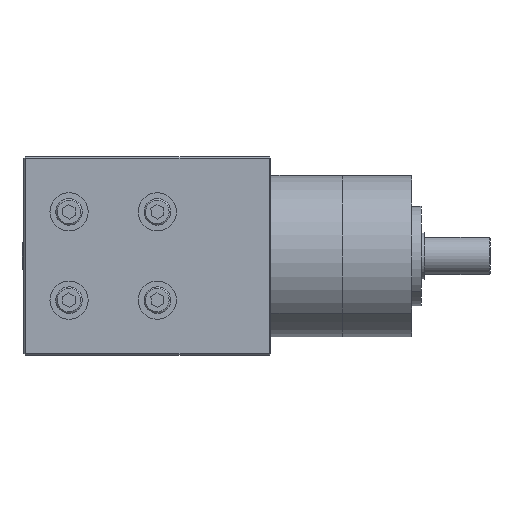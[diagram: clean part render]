
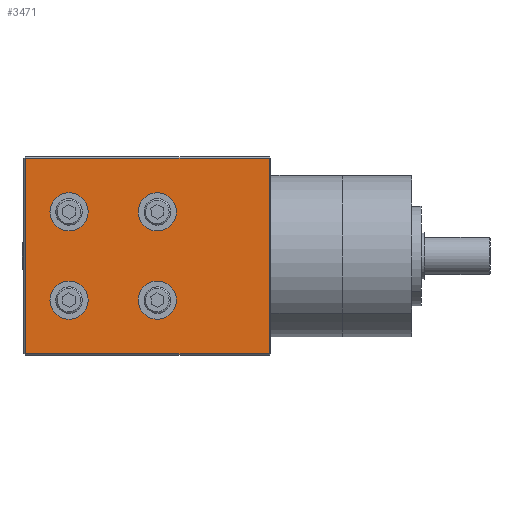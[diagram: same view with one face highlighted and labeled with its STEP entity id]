
A CAD part, front view. The second image highlights one B-rep face of the part: STEP entity #3471.
In plain terms, the highlighted planar face has unit normal (0, -1, 0).
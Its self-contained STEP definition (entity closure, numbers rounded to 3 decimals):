
#159 = FACE_BOUND ( 'NONE', #8695, .T. ) ;
#233 = DIRECTION ( 'NONE',  ( 0., 0., -1. ) ) ;
#336 = LINE ( 'NONE', #8129, #11115 ) ;
#353 = DIRECTION ( 'NONE',  ( 1., 0., 0. ) ) ;
#536 = VECTOR ( 'NONE', #233, 1000. ) ;
#609 = CARTESIAN_POINT ( 'NONE',  ( -10.858, -100.506, -66.179 ) ) ;
#709 = EDGE_CURVE ( 'NONE', #9311, #7348, #2688, .T. ) ;
#780 = CARTESIAN_POINT ( 'NONE',  ( -10.858, -100.506, -60.059 ) ) ;
#837 = DIRECTION ( 'NONE',  ( 0., 0., -1. ) ) ;
#955 = VECTOR ( 'NONE', #14686, 1000. ) ;
#1033 = CIRCLE ( 'NONE', #2402, 6.12 ) ;
#1438 = CARTESIAN_POINT ( 'NONE',  ( 24.986, -100.506, -42.96 ) ) ;
#1648 = EDGE_CURVE ( 'NONE', #8532, #12076, #8565, .T. ) ;
#1676 = ORIENTED_EDGE ( 'NONE', *, *, #6615, .T. ) ;
#1787 = CARTESIAN_POINT ( 'NONE',  ( -39.146, -100.506, -88.346 ) ) ;
#1827 = CARTESIAN_POINT ( 'NONE',  ( -53.069, -100.506, -42.96 ) ) ;
#1978 = DIRECTION ( 'NONE',  ( 0., -1., 0. ) ) ;
#2039 = CIRCLE ( 'NONE', #10044, 6.12 ) ;
#2374 = CARTESIAN_POINT ( 'NONE',  ( -10.858, -100.506, -88.346 ) ) ;
#2402 = AXIS2_PLACEMENT_3D ( 'NONE', #2374, #13181, #2476 ) ;
#2440 = FACE_BOUND ( 'NONE', #12923, .T. ) ;
#2452 = EDGE_CURVE ( 'NONE', #12038, #4249, #7398, .T. ) ;
#2476 = DIRECTION ( 'NONE',  ( 0., 0., -1. ) ) ;
#2543 = DIRECTION ( 'NONE',  ( 0., 0., -1. ) ) ;
#2548 = AXIS2_PLACEMENT_3D ( 'NONE', #14233, #8099, #14289 ) ;
#2688 = CIRCLE ( 'NONE', #11516, 6.12 ) ;
#2790 = CARTESIAN_POINT ( 'NONE',  ( -39.146, -100.506, -66.179 ) ) ;
#2965 = ORIENTED_EDGE ( 'NONE', *, *, #2452, .T. ) ;
#3047 = VERTEX_POINT ( 'NONE', #7486 ) ;
#3076 = CARTESIAN_POINT ( 'NONE',  ( -39.146, -100.506, -94.466 ) ) ;
#3133 = DIRECTION ( 'NONE',  ( 0., -1., 0. ) ) ;
#3366 = FACE_BOUND ( 'NONE', #11465, .T. ) ;
#3471 = ADVANCED_FACE ( 'NONE', ( #9807, #5450, #3366, #2440, #159 ), #13019, .F. ) ;
#3635 = LINE ( 'NONE', #6340, #7629 ) ;
#3861 = EDGE_CURVE ( 'NONE', #14158, #15181, #2039, .T. ) ;
#4060 = EDGE_CURVE ( 'NONE', #4249, #9367, #336, .T. ) ;
#4206 = ORIENTED_EDGE ( 'NONE', *, *, #13867, .F. ) ;
#4249 = VERTEX_POINT ( 'NONE', #1438 ) ;
#4549 = AXIS2_PLACEMENT_3D ( 'NONE', #780, #1978, #837 ) ;
#4808 = CARTESIAN_POINT ( 'NONE',  ( -10.858, -100.506, -60.059 ) ) ;
#5450 = FACE_BOUND ( 'NONE', #12191, .T. ) ;
#5467 = DIRECTION ( 'NONE',  ( 0., 0., -1. ) ) ;
#5669 = AXIS2_PLACEMENT_3D ( 'NONE', #1787, #11505, #10255 ) ;
#6073 = ORIENTED_EDGE ( 'NONE', *, *, #3861, .F. ) ;
#6080 = DIRECTION ( 'NONE',  ( 0., 0., -1. ) ) ;
#6109 = CARTESIAN_POINT ( 'NONE',  ( 24.986, -100.506, -42.452 ) ) ;
#6197 = DIRECTION ( 'NONE',  ( 0., -1., 0. ) ) ;
#6340 = CARTESIAN_POINT ( 'NONE',  ( -53.577, -100.506, -105.444 ) ) ;
#6615 = EDGE_CURVE ( 'NONE', #8734, #12038, #3635, .T. ) ;
#7072 = AXIS2_PLACEMENT_3D ( 'NONE', #9175, #3133, #14044 ) ;
#7097 = CIRCLE ( 'NONE', #7072, 6.12 ) ;
#7348 = VERTEX_POINT ( 'NONE', #12868 ) ;
#7398 = LINE ( 'NONE', #6109, #955 ) ;
#7486 = CARTESIAN_POINT ( 'NONE',  ( -10.858, -100.506, -53.939 ) ) ;
#7532 = DIRECTION ( 'NONE',  ( 0., -1., 0. ) ) ;
#7629 = VECTOR ( 'NONE', #353, 1000. ) ;
#7790 = CARTESIAN_POINT ( 'NONE',  ( -39.146, -100.506, -53.939 ) ) ;
#7873 = CARTESIAN_POINT ( 'NONE',  ( -10.858, -100.506, -94.466 ) ) ;
#8080 = DIRECTION ( 'NONE',  ( 0., -1., 0. ) ) ;
#8099 = DIRECTION ( 'NONE',  ( 0., 1., 0. ) ) ;
#8129 = CARTESIAN_POINT ( 'NONE',  ( -53.577, -100.506, -42.96 ) ) ;
#8229 = CARTESIAN_POINT ( 'NONE',  ( -39.146, -100.506, -82.226 ) ) ;
#8418 = ORIENTED_EDGE ( 'NONE', *, *, #13982, .F. ) ;
#8532 = VERTEX_POINT ( 'NONE', #8229 ) ;
#8565 = CIRCLE ( 'NONE', #5669, 6.12 ) ;
#8658 = CIRCLE ( 'NONE', #13094, 6.12 ) ;
#8695 = EDGE_LOOP ( 'NONE', ( #13178, #8418 ) ) ;
#8706 = ORIENTED_EDGE ( 'NONE', *, *, #13752, .F. ) ;
#8734 = VERTEX_POINT ( 'NONE', #9731 ) ;
#8935 = ORIENTED_EDGE ( 'NONE', *, *, #10328, .F. ) ;
#9062 = CIRCLE ( 'NONE', #4549, 6.12 ) ;
#9175 = CARTESIAN_POINT ( 'NONE',  ( -39.146, -100.506, -88.346 ) ) ;
#9311 = VERTEX_POINT ( 'NONE', #7873 ) ;
#9367 = VERTEX_POINT ( 'NONE', #1827 ) ;
#9487 = CARTESIAN_POINT ( 'NONE',  ( -10.858, -100.506, -88.346 ) ) ;
#9494 = EDGE_CURVE ( 'NONE', #13902, #3047, #9062, .T. ) ;
#9731 = CARTESIAN_POINT ( 'NONE',  ( -53.069, -100.506, -105.444 ) ) ;
#9751 = EDGE_CURVE ( 'NONE', #9367, #8734, #15305, .T. ) ;
#9807 = FACE_OUTER_BOUND ( 'NONE', #12184, .T. ) ;
#10044 = AXIS2_PLACEMENT_3D ( 'NONE', #15172, #8080, #5467 ) ;
#10255 = DIRECTION ( 'NONE',  ( 0., 0., -1. ) ) ;
#10328 = EDGE_CURVE ( 'NONE', #15181, #14158, #8658, .T. ) ;
#11001 = AXIS2_PLACEMENT_3D ( 'NONE', #4808, #6197, #6080 ) ;
#11115 = VECTOR ( 'NONE', #13045, 1000. ) ;
#11465 = EDGE_LOOP ( 'NONE', ( #8706, #12895 ) ) ;
#11505 = DIRECTION ( 'NONE',  ( 0., -1., 0. ) ) ;
#11516 = AXIS2_PLACEMENT_3D ( 'NONE', #9487, #15429, #11804 ) ;
#11804 = DIRECTION ( 'NONE',  ( 0., 0., -1. ) ) ;
#12038 = VERTEX_POINT ( 'NONE', #14899 ) ;
#12076 = VERTEX_POINT ( 'NONE', #3076 ) ;
#12184 = EDGE_LOOP ( 'NONE', ( #1676, #2965, #13576, #14482 ) ) ;
#12191 = EDGE_LOOP ( 'NONE', ( #6073, #8935 ) ) ;
#12868 = CARTESIAN_POINT ( 'NONE',  ( -10.858, -100.506, -82.226 ) ) ;
#12895 = ORIENTED_EDGE ( 'NONE', *, *, #1648, .F. ) ;
#12923 = EDGE_LOOP ( 'NONE', ( #13784, #4206 ) ) ;
#13019 = PLANE ( 'NONE',  #2548 ) ;
#13045 = DIRECTION ( 'NONE',  ( -1., 0., 0. ) ) ;
#13094 = AXIS2_PLACEMENT_3D ( 'NONE', #13448, #7532, #2543 ) ;
#13178 = ORIENTED_EDGE ( 'NONE', *, *, #9494, .F. ) ;
#13181 = DIRECTION ( 'NONE',  ( 0., -1., 0. ) ) ;
#13448 = CARTESIAN_POINT ( 'NONE',  ( -39.146, -100.506, -60.059 ) ) ;
#13576 = ORIENTED_EDGE ( 'NONE', *, *, #4060, .T. ) ;
#13752 = EDGE_CURVE ( 'NONE', #12076, #8532, #7097, .T. ) ;
#13784 = ORIENTED_EDGE ( 'NONE', *, *, #709, .F. ) ;
#13867 = EDGE_CURVE ( 'NONE', #7348, #9311, #1033, .T. ) ;
#13902 = VERTEX_POINT ( 'NONE', #609 ) ;
#13982 = EDGE_CURVE ( 'NONE', #3047, #13902, #15620, .T. ) ;
#14044 = DIRECTION ( 'NONE',  ( 0., 0., -1. ) ) ;
#14158 = VERTEX_POINT ( 'NONE', #2790 ) ;
#14233 = CARTESIAN_POINT ( 'NONE',  ( -53.577, -100.506, -42.452 ) ) ;
#14289 = DIRECTION ( 'NONE',  ( 0., 0., 1. ) ) ;
#14482 = ORIENTED_EDGE ( 'NONE', *, *, #9751, .T. ) ;
#14630 = CARTESIAN_POINT ( 'NONE',  ( -53.069, -100.506, -42.452 ) ) ;
#14686 = DIRECTION ( 'NONE',  ( 0., 0., 1. ) ) ;
#14899 = CARTESIAN_POINT ( 'NONE',  ( 24.986, -100.506, -105.444 ) ) ;
#15172 = CARTESIAN_POINT ( 'NONE',  ( -39.146, -100.506, -60.059 ) ) ;
#15181 = VERTEX_POINT ( 'NONE', #7790 ) ;
#15305 = LINE ( 'NONE', #14630, #536 ) ;
#15429 = DIRECTION ( 'NONE',  ( 0., -1., 0. ) ) ;
#15620 = CIRCLE ( 'NONE', #11001, 6.12 ) ;
